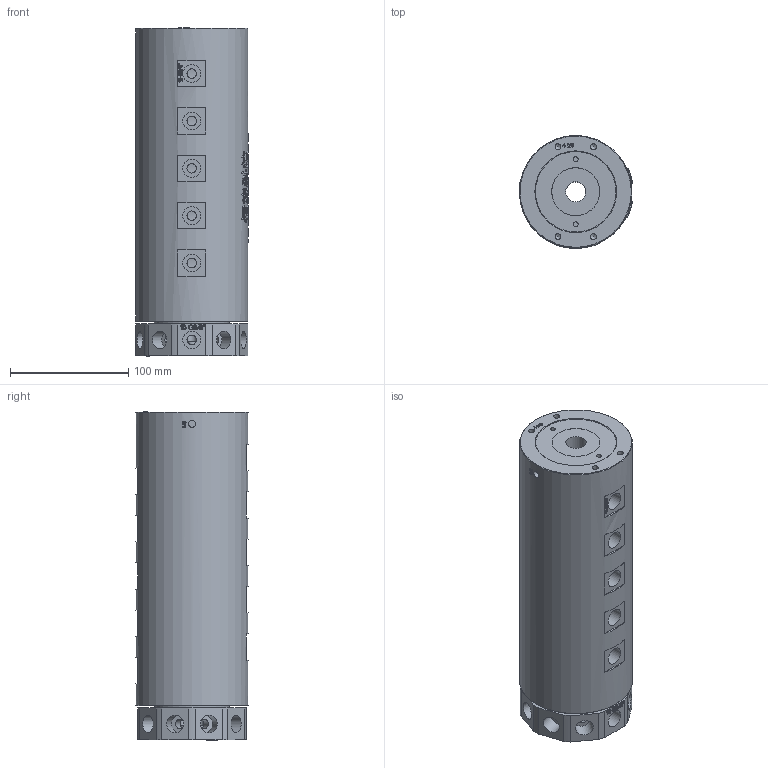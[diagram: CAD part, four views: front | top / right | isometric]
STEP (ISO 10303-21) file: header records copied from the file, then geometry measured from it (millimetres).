
FILE_DESCRIPTION(/* description */ (''),/* implementation_level */ '2;1');
FILE_NAME(/* name */ 'HQ1003-3D模型.stp',/* time_stamp */ '2025-08-02T17:25:13+08:00',/* author */ (''),/* organization */ (''),/* preprocessor_version */ 'ST-DEVELOPER v16.7',/* originating_system */ 'SIEMENS PLM Software NX 12.0',/* authorisation */ '');
FILE_SCHEMA (('AUTOMOTIVE_DESIGN { 1 0 10303 214 3 1 1 1 }'));
Products named in the file (1): Admi0A2CCD10cf6i
Bounding box: 95.46 x 95 x 277.4 mm (x, y, z)
Volume: 1820780.5 mm3; surface area: 147744.2 mm2
Topology: 1 solids, 1 shells, 1079 faces, 2819 edges, 1869 vertices
Faces by surface type: plane 482, extrusion 401, cylinder 129, bspline 56, cone 11
Full cylindrical faces by diameter (mm): 4 x2, 5 x8, 6 x2, 8 x30, 8.4 x10, 8.5 x10, 15 x20, 17 x1, 40.5 x1, 40.6 x1, 63 x1, 95 x1
Entity records: 45533 total; most frequent: CARTESIAN_POINT 23020, ORIENTED_EDGE 5274, DIRECTION 2963, EDGE_CURVE 2637, B_SPLINE_CURVE_WITH_KNOTS 2110, VERTEX_POINT 1812, EDGE_LOOP 1327, ADVANCED_FACE 1070
